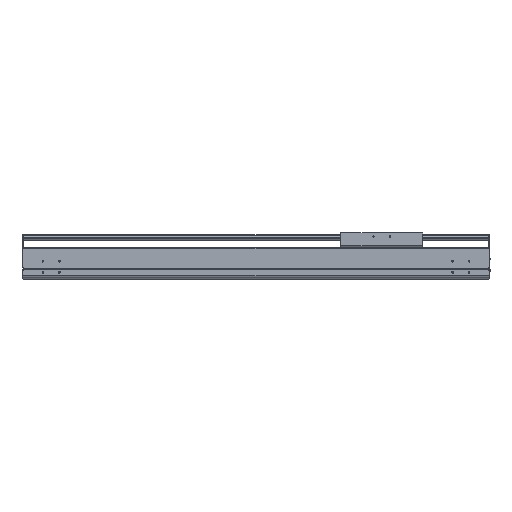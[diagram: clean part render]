
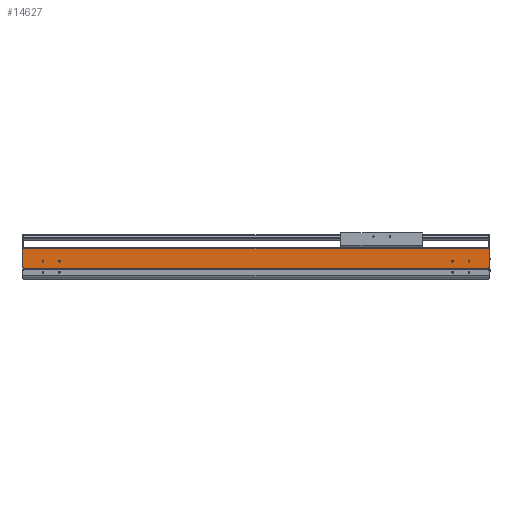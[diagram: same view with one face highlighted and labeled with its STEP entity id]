
A CAD part, top view. The second image highlights one B-rep face of the part: STEP entity #14627.
In plain terms, the highlighted planar face has unit normal (0, 0, 1).
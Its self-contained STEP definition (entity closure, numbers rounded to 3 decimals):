
#1832=DIRECTION('',(0.,-1.,0.));
#1833=VECTOR('',#1832,2.55);
#1834=CARTESIAN_POINT('',(0.,34.65,107.));
#1835=LINE('',#1834,#1833);
#2315=DIRECTION('',(1.,0.,0.));
#2316=VECTOR('',#2315,2.);
#2317=CARTESIAN_POINT('',(-1421.,34.65,107.));
#2318=LINE('',#2317,#2316);
#2319=CARTESIAN_POINT('',(-59.5,54.,107.));
#2320=DIRECTION('',(0.,0.,-1.));
#2321=DIRECTION('',(1.,0.,0.));
#2322=AXIS2_PLACEMENT_3D('',#2319,#2320,#2321);
#2324=CARTESIAN_POINT('',(-59.5,54.,107.));
#2325=DIRECTION('',(0.,0.,-1.));
#2326=DIRECTION('',(-1.,0.,0.));
#2327=AXIS2_PLACEMENT_3D('',#2324,#2325,#2326);
#2329=CARTESIAN_POINT('',(-109.5,54.,107.));
#2330=DIRECTION('',(0.,0.,-1.));
#2331=DIRECTION('',(1.,0.,0.));
#2332=AXIS2_PLACEMENT_3D('',#2329,#2330,#2331);
#2334=CARTESIAN_POINT('',(-109.5,54.,107.));
#2335=DIRECTION('',(0.,0.,-1.));
#2336=DIRECTION('',(-1.,0.,0.));
#2337=AXIS2_PLACEMENT_3D('',#2334,#2335,#2336);
#2339=CARTESIAN_POINT('',(-1359.5,54.,107.));
#2340=DIRECTION('',(0.,0.,-1.));
#2341=DIRECTION('',(1.,0.,0.));
#2342=AXIS2_PLACEMENT_3D('',#2339,#2340,#2341);
#2344=CARTESIAN_POINT('',(-1359.5,54.,107.));
#2345=DIRECTION('',(0.,0.,-1.));
#2346=DIRECTION('',(-1.,0.,0.));
#2347=AXIS2_PLACEMENT_3D('',#2344,#2345,#2346);
#2349=CARTESIAN_POINT('',(-1309.5,54.,107.));
#2350=DIRECTION('',(0.,0.,-1.));
#2351=DIRECTION('',(1.,0.,0.));
#2352=AXIS2_PLACEMENT_3D('',#2349,#2350,#2351);
#2354=CARTESIAN_POINT('',(-1309.5,54.,107.));
#2355=DIRECTION('',(0.,0.,-1.));
#2356=DIRECTION('',(-1.,0.,0.));
#2357=AXIS2_PLACEMENT_3D('',#2354,#2355,#2356);
#2359=DIRECTION('',(0.,-1.,0.));
#2360=VECTOR('',#2359,2.55);
#2361=CARTESIAN_POINT('',(-1419.,34.65,107.));
#2362=LINE('',#2361,#2360);
#2363=DIRECTION('',(0.,-1.,0.));
#2364=VECTOR('',#2363,58.85);
#2365=CARTESIAN_POINT('',(-1421.,93.5,107.));
#2366=LINE('',#2365,#2364);
#2367=DIRECTION('',(0.,1.,0.));
#2368=VECTOR('',#2367,58.85);
#2369=CARTESIAN_POINT('',(2.,34.65,107.));
#2370=LINE('',#2369,#2368);
#2371=DIRECTION('',(1.,0.,0.));
#2372=VECTOR('',#2371,1419.);
#2373=CARTESIAN_POINT('',(-1419.,32.1,107.));
#2374=LINE('',#2373,#2372);
#2479=DIRECTION('',(-1.,0.,0.));
#2480=VECTOR('',#2479,1423.);
#2481=CARTESIAN_POINT('',(2.,93.5,107.));
#2482=LINE('',#2481,#2480);
#7919=DIRECTION('',(1.,0.,0.));
#7920=VECTOR('',#7919,2.);
#7921=CARTESIAN_POINT('',(0.,34.65,107.));
#7922=LINE('',#7921,#7920);
#9257=CARTESIAN_POINT('',(-1421.,34.65,107.));
#9258=VERTEX_POINT('',#9257);
#9259=CARTESIAN_POINT('',(-1421.,93.5,107.));
#9260=VERTEX_POINT('',#9259);
#9489=CARTESIAN_POINT('',(-1419.,32.1,107.));
#9490=VERTEX_POINT('',#9489);
#9789=CARTESIAN_POINT('',(0.,32.1,107.));
#9790=VERTEX_POINT('',#9789);
#9791=CARTESIAN_POINT('',(-57.,54.,107.));
#9792=CARTESIAN_POINT('',(-62.,54.,107.));
#9793=VERTEX_POINT('',#9791);
#9794=VERTEX_POINT('',#9792);
#9795=CARTESIAN_POINT('',(-107.,54.,107.));
#9796=CARTESIAN_POINT('',(-112.,54.,107.));
#9797=VERTEX_POINT('',#9795);
#9798=VERTEX_POINT('',#9796);
#9799=CARTESIAN_POINT('',(-1357.,54.,107.));
#9800=CARTESIAN_POINT('',(-1362.,54.,107.));
#9801=VERTEX_POINT('',#9799);
#9802=VERTEX_POINT('',#9800);
#9803=CARTESIAN_POINT('',(-1307.,54.,107.));
#9804=CARTESIAN_POINT('',(-1312.,54.,107.));
#9805=VERTEX_POINT('',#9803);
#9806=VERTEX_POINT('',#9804);
#10466=CARTESIAN_POINT('',(2.,34.65,107.));
#10467=VERTEX_POINT('',#10466);
#10468=CARTESIAN_POINT('',(2.,93.5,107.));
#10469=VERTEX_POINT('',#10468);
#10920=CARTESIAN_POINT('',(0.,34.65,107.));
#10921=VERTEX_POINT('',#10920);
#11000=CARTESIAN_POINT('',(-1419.,34.65,107.));
#11001=VERTEX_POINT('',#11000);
#14585=CARTESIAN_POINT('',(-709.5,62.8,107.));
#14586=DIRECTION('',(0.,0.,1.));
#14587=DIRECTION('',(0.,-1.,0.));
#14588=AXIS2_PLACEMENT_3D('',#14585,#14586,#14587);
#14589=PLANE('',#14588);
#14590=ORIENTED_EDGE('',*,*,#12071,.F.);
#14591=ORIENTED_EDGE('',*,*,#14580,.F.);
#14592=ORIENTED_EDGE('',*,*,#12700,.F.);
#14594=ORIENTED_EDGE('',*,*,#14593,.F.);
#14595=ORIENTED_EDGE('',*,*,#11808,.F.);
#14597=ORIENTED_EDGE('',*,*,#14596,.F.);
#14598=ORIENTED_EDGE('',*,*,#14188,.T.);
#14600=ORIENTED_EDGE('',*,*,#14599,.F.);
#14601=EDGE_LOOP('',(#14590,#14591,#14592,#14594,#14595,#14597,#14598,#14600));
#14602=FACE_OUTER_BOUND('',#14601,.F.);
#14604=ORIENTED_EDGE('',*,*,#14603,.F.);
#14606=ORIENTED_EDGE('',*,*,#14605,.F.);
#14607=EDGE_LOOP('',(#14604,#14606));
#14608=FACE_BOUND('',#14607,.F.);
#14610=ORIENTED_EDGE('',*,*,#14609,.F.);
#14612=ORIENTED_EDGE('',*,*,#14611,.F.);
#14613=EDGE_LOOP('',(#14610,#14612));
#14614=FACE_BOUND('',#14613,.F.);
#14616=ORIENTED_EDGE('',*,*,#14615,.F.);
#14618=ORIENTED_EDGE('',*,*,#14617,.F.);
#14619=EDGE_LOOP('',(#14616,#14618));
#14620=FACE_BOUND('',#14619,.F.);
#14622=ORIENTED_EDGE('',*,*,#14621,.F.);
#14624=ORIENTED_EDGE('',*,*,#14623,.F.);
#14625=EDGE_LOOP('',(#14622,#14624));
#14626=FACE_BOUND('',#14625,.F.);
#14627=ADVANCED_FACE('',(#14602,#14608,#14614,#14620,#14626),#14589,.T.);
#2323=CIRCLE('',#2322,2.5);
#2328=CIRCLE('',#2327,2.5);
#2333=CIRCLE('',#2332,2.5);
#2338=CIRCLE('',#2337,2.5);
#2343=CIRCLE('',#2342,2.5);
#2348=CIRCLE('',#2347,2.5);
#2353=CIRCLE('',#2352,2.5);
#2358=CIRCLE('',#2357,2.5);
#11808=EDGE_CURVE('',#10467,#10469,#2370,.T.);
#12071=EDGE_CURVE('',#11001,#9490,#2362,.T.);
#12700=EDGE_CURVE('',#9260,#9258,#2366,.T.);
#14188=EDGE_CURVE('',#10921,#9790,#1835,.T.);
#14580=EDGE_CURVE('',#9258,#11001,#2318,.T.);
#14593=EDGE_CURVE('',#10469,#9260,#2482,.T.);
#14596=EDGE_CURVE('',#10921,#10467,#7922,.T.);
#14599=EDGE_CURVE('',#9490,#9790,#2374,.T.);
#14603=EDGE_CURVE('',#9797,#9798,#2333,.T.);
#14605=EDGE_CURVE('',#9798,#9797,#2338,.T.);
#14609=EDGE_CURVE('',#9801,#9802,#2343,.T.);
#14611=EDGE_CURVE('',#9802,#9801,#2348,.T.);
#14615=EDGE_CURVE('',#9805,#9806,#2353,.T.);
#14617=EDGE_CURVE('',#9806,#9805,#2358,.T.);
#14621=EDGE_CURVE('',#9793,#9794,#2323,.T.);
#14623=EDGE_CURVE('',#9794,#9793,#2328,.T.);
